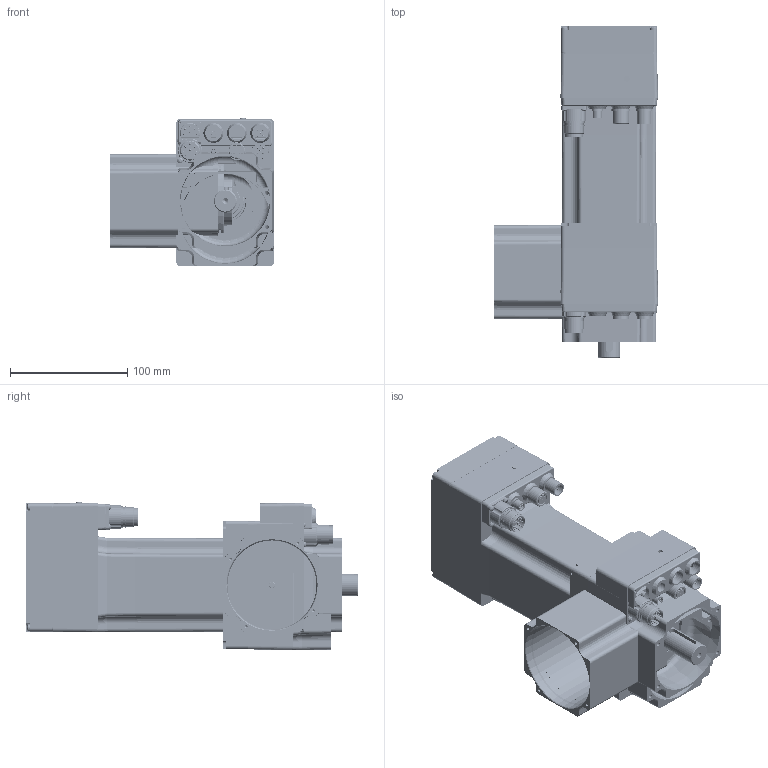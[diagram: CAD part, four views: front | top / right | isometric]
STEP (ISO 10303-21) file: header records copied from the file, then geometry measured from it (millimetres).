
FILE_DESCRIPTION( ( 'Unknown' ), '1' );
FILE_NAME( 'F:/BUFFER/Public/ELISA/DUET 80/Q0B217/Q0B217 2,8.stp', 'Unknown', ( 'Unknown' ), ( 'Unknown' ), 'PSStep 14.0', 'Unknown', ' ' );
FILE_SCHEMA( ( 'AUTOMOTIVE_DESIGN { 1 0 10303 214 1 1 1 1 }' ) );
Length unit declared in the file: millimetre
Products named in the file (43): T00246; Assem1; 005117000974; N54236; CN M23 PAN-POT BEGA 906 4+5p; VECST-8112 M  2,5 x 12; G00030_profibus; G00029_Profibus; N33250; LI-PIA   6x6 x 30; CUSC_15_32_9_6002_ZZ; CUSC_20_42_12_6004_ZZ; a-ela  20; Anello-elastico-chiuso  42; N09280; Vite a brugola testa cil 8,8 -  M  3 x 25; Vite a brugola testa cil 8,8 -  M  3 x 25-oa0; Vite a brugola testa cil 8,8 -  M  3 x 25-oa1; Vite a brugola testa cil 8,8 -  M  3 x 25-oa2; Vite a brugola testa cil 8,8 -  M  3 x 40; Vite a brugola testa cil 8,8 -  M  3 x 40-oa3; Vite a brugola testa cil 8,8 -  M  3 x 40-oa4; Vite a brugola testa cil 8,8 -  M  3 x 40-oa5; N35217; VECST-8112 M  3 x 30; 003016000054; N54239; N01380
Bounding box: 139.5 x 282.93 x 126.21 mm (x, y, z)
Volume: 1176716.2 mm3; surface area: 564530.8 mm2
Topology: 98 solids, 102 shells, 7373 faces, 20089 edges, 13163 vertices
Faces by surface type: plane 4030, cylinder 2509, bspline 283, cone 272, torus 211, sphere 68
Full cylindrical faces by diameter (mm): 1 x39, 1.5 x72, 2 x4, 2.4 x24, 2.459 x44, 2.5 x13, 2.7 x12, 3 x21, 3.5 x40, 4 x5, 4.2 x2, 4.917 x2, 5 x11, 5.5 x16, 6 x28, 8 x17, 8.5 x9, 8.75 x3, 9 x6, 10 x3, 11 x15, 11.9 x6, 12 x9, 14 x6, 14.4 x3, 14.5 x3, 15 x4, 15.6 x3, 16 x3, 16.5 x3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
Entity records: 104134 total; most frequent: CARTESIAN_POINT 27178, ORIENTED_EDGE 13318, DIRECTION 13181, EDGE_CURVE 6659, AXIS2_PLACEMENT_3D 4732, VERTEX_POINT 4552, LINE 3717, VECTOR 3717
